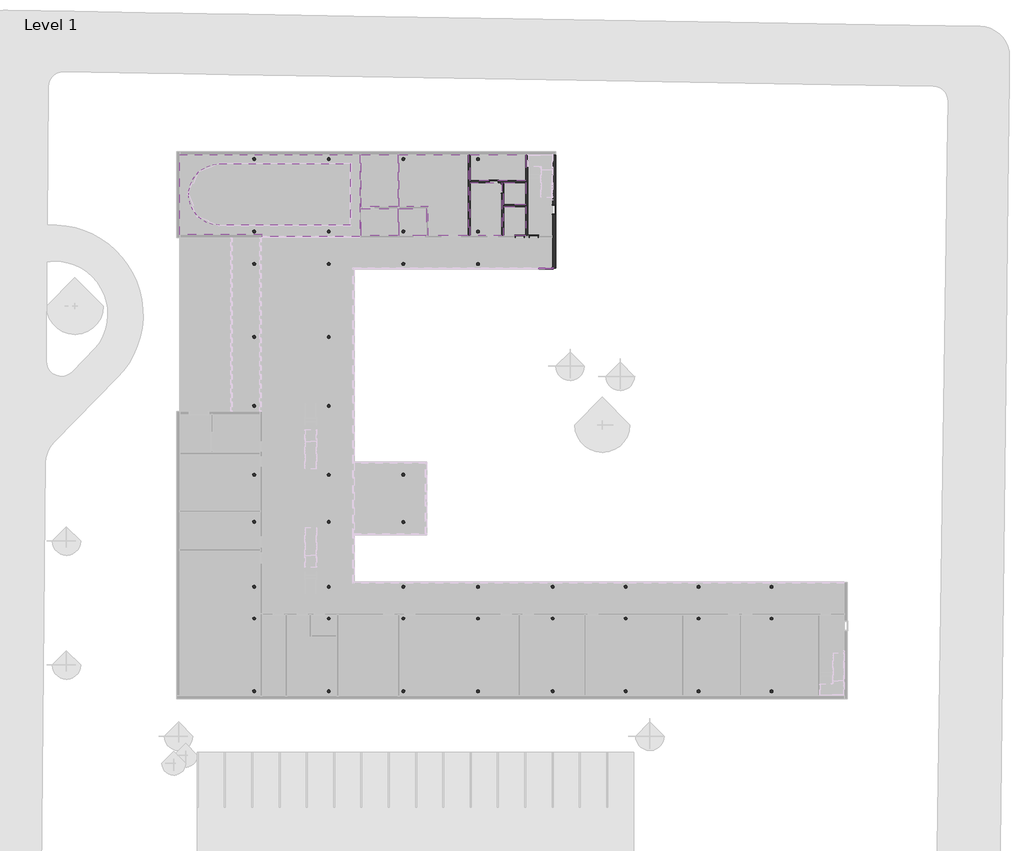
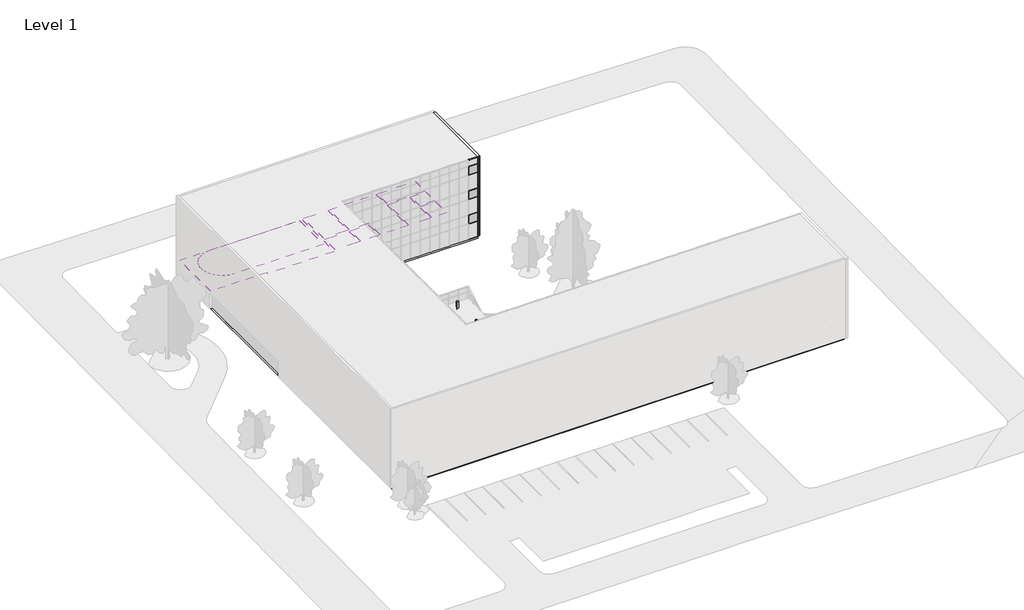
# One storey, part 17 of 27: 46 columns, 15 members, 10 coverings, 6 walls, 5 doors, 3 plates, 1 slab.
"""IFC4 building model written with IfcOpenShell, lengths in millimetres."""

from ifc_helpers import new_model, si_unit, point, frame, frame_2d, origin, origin_with_axes, place, context, project, spatial, polyline, circle_curve, trimmed, segment, composite_curve, outline, extrude, faceted_brep, transform, mapped, element, save
from components import m_concrete_round_column_300mm_df790aaa, door_0915mm_x_2134mm_2aa27b83, door_0915mm_x_2134mm_3fa07aa3, door_0915mm_x_2134mm_b19b82af, quad_corner_mullion_quad_mullion_1_893af7fe, quad_corner_mullion_quad_mullion_1_37ac55ff, quad_corner_mullion_quad_mullion_1_d5379b67, rectangular_mullion_50mm_x_150mm_4d4922e7, rectangular_mullion_50mm_x_150mm_da00b109, system_panel_solid_b23a9ee6

model = new_model("IFC4")

# Units and contexts
model_context = context("Model", 3, world=origin())
ifc_project = project(units=[si_unit("LENGTHUNIT", "METRE", prefix="MILLI")], contexts=[model_context])

# Site, building, storey
site = spatial("IfcSite", under=ifc_project)
building = spatial("IfcBuilding", under=site)
storey = spatial("IfcBuildingStorey", under=building, Name="Level 1", Elevation=0.0)

# Columns
placement = place(None, origin())
element("IfcColumn", 1, ObjectType="M_Concrete-Round-Column : 300mm", at=placement, inside=storey, context=model_context, shape_type="SweptSolid", body=[
    extrude(outline(composite_curve([segment(trimmed(circle_curve(frame_2d((12436.4044804, -1309.4607941)), 150.0), [point((12586.4044804, -1309.4607941))], [point((12286.4044804, -1309.4607941))], False, "CARTESIAN"), True, "CONTINUOUS"), segment(trimmed(circle_curve(frame_2d((12436.4044804, -1309.4607941)), 150.0), [point((12286.4044804, -1309.4607941))], [point((12586.4044804, -1309.4607941))], False, "CARTESIAN"), True, "CONTINUOUS")], self_intersect=False)), origin_with_axes(), (0.0, 0.0, 1.0), 7634.4266858),
])
element("IfcColumn", 2, ObjectType="M_Concrete-Round-Column : 300mm", at=placement, inside=storey, context=model_context, shape_type="SweptSolid", body=[
    extrude(outline(composite_curve([segment(trimmed(circle_curve(frame_2d((12436.4044804, -6063.8611817)), 150.0), [point((12586.4044804, -6063.8611817))], [point((12286.4044804, -6063.8611817))], False, "CARTESIAN"), True, "CONTINUOUS"), segment(trimmed(circle_curve(frame_2d((12436.4044804, -6063.8611817)), 150.0), [point((12286.4044804, -6063.8611817))], [point((12586.4044804, -6063.8611817))], False, "CARTESIAN"), True, "CONTINUOUS")], self_intersect=False)), origin_with_axes(), (0.0, 0.0, 1.0), 7634.4266858),
])
m_concrete_round_column_300mm_shape = m_concrete_round_column_300mm_df790aaa(model_context)
element("IfcColumn", 3, ObjectType="M_Concrete-Round-Column : 300mm", at=placement, inside=storey, context=model_context, shape_type="MappedRepresentation", body=[
    mapped(m_concrete_round_column_300mm_shape, transform((-2539.0909489, 23121.5799804, 0.0), x_axis=(-1.0, 0.0, 0.0), y_axis=(0.0, -1.0, 0.0), z_axis=(0.0, 0.0, 1.0))),
])
element("IfcColumn", 4, ObjectType="M_Concrete-Round-Column : 300mm", at=placement, inside=storey, context=model_context, shape_type="MappedRepresentation", body=[
    mapped(m_concrete_round_column_300mm_shape, transform((-2539.0909489, 12506.7392059, 0.0), x_axis=(-1.0, 0.0, 0.0), y_axis=(0.0, -1.0, 0.0), z_axis=(0.0, 0.0, 1.0))),
])
element("IfcColumn", 5, ObjectType="M_Concrete-Round-Column : 300mm", at=placement, inside=storey, context=model_context, shape_type="MappedRepresentation", body=[
    mapped(m_concrete_round_column_300mm_shape, transform((-2539.0909489, 5598.6392059, 0.0), x_axis=(-1.0, 0.0, 0.0), y_axis=(0.0, -1.0, 0.0), z_axis=(0.0, 0.0, 1.0))),
])
element("IfcColumn", 6, ObjectType="M_Concrete-Round-Column : 300mm", at=placement, inside=storey, context=model_context, shape_type="MappedRepresentation", body=[
    mapped(m_concrete_round_column_300mm_shape, transform((-2539.0909489, -1309.4607941, 0.0), x_axis=(-1.0, 0.0, 0.0), y_axis=(0.0, -1.0, 0.0), z_axis=(0.0, 0.0, 1.0))),
])
element("IfcColumn", 7, ObjectType="M_Concrete-Round-Column : 300mm", at=placement, inside=storey, context=model_context, shape_type="MappedRepresentation", body=[
    mapped(m_concrete_round_column_300mm_shape, transform((-2539.0909489, -6063.8611817, 0.0), x_axis=(-1.0, 0.0, 0.0), y_axis=(0.0, -1.0, 0.0), z_axis=(0.0, 0.0, 1.0))),
])
element("IfcColumn", 8, ObjectType="M_Concrete-Round-Column : 300mm", at=placement, inside=storey, context=model_context, shape_type="MappedRepresentation", body=[
    mapped(m_concrete_round_column_300mm_shape, transform((-2539.0909489, -15754.7006057, 0.0), x_axis=(-1.0, 0.0, 0.0), y_axis=(0.0, -1.0, 0.0), z_axis=(0.0, 0.0, 1.0))),
])
element("IfcColumn", 9, ObjectType="M_Concrete-Round-Column : 300mm", at=placement, inside=storey, context=model_context, shape_type="MappedRepresentation", body=[
    mapped(m_concrete_round_column_300mm_shape, transform((-2539.0909489, 30368.5799804, 0.0), x_axis=(-1.0, 0.0, 0.0), y_axis=(0.0, -1.0, 0.0), z_axis=(0.0, 0.0, 1.0))),
])
element("IfcColumn", 10, ObjectType="M_Concrete-Round-Column : 300mm", at=placement, inside=storey, context=model_context, shape_type="MappedRepresentation", body=[
    mapped(m_concrete_round_column_300mm_shape, transform((-2539.0909489, 19864.8392059, 0.0), x_axis=(-1.0, 0.0, 0.0), y_axis=(0.0, -1.0, 0.0), z_axis=(0.0, 0.0, 1.0))),
])
element("IfcColumn", 11, ObjectType="M_Concrete-Round-Column : 300mm", at=placement, inside=storey, context=model_context, shape_type="MappedRepresentation", body=[
    mapped(m_concrete_round_column_300mm_shape, transform((-2539.0909489, -12582.3615692, 0.0), x_axis=(-1.0, 0.0, 0.0), y_axis=(0.0, -1.0, 0.0), z_axis=(0.0, 0.0, 1.0))),
])
element("IfcColumn", 12, ObjectType="M_Concrete-Round-Column : 300mm", at=placement, inside=storey, context=model_context, shape_type="MappedRepresentation", body=[
    mapped(m_concrete_round_column_300mm_shape, transform((-2539.0909489, -23060.7006057, 0.0), x_axis=(-1.0, 0.0, 0.0), y_axis=(0.0, -1.0, 0.0), z_axis=(0.0, 0.0, 1.0))),
])
element("IfcColumn", 13, ObjectType="M_Concrete-Round-Column : 300mm", at=placement, inside=storey, context=model_context, shape_type="MappedRepresentation", body=[
    mapped(m_concrete_round_column_300mm_shape, transform((4948.6567657, 23121.5799804, 0.0), x_axis=(-1.0, 0.0, 0.0), y_axis=(0.0, -1.0, 0.0), z_axis=(0.0, 0.0, 1.0))),
])
element("IfcColumn", 14, ObjectType="M_Concrete-Round-Column : 300mm", at=placement, inside=storey, context=model_context, shape_type="MappedRepresentation", body=[
    mapped(m_concrete_round_column_300mm_shape, transform((4948.6567657, 12506.7392059, 0.0), x_axis=(-1.0, 0.0, 0.0), y_axis=(0.0, -1.0, 0.0), z_axis=(0.0, 0.0, 1.0))),
])
element("IfcColumn", 15, ObjectType="M_Concrete-Round-Column : 300mm", at=placement, inside=storey, context=model_context, shape_type="MappedRepresentation", body=[
    mapped(m_concrete_round_column_300mm_shape, transform((4948.6567657, 5598.6392059, 0.0), x_axis=(-1.0, 0.0, 0.0), y_axis=(0.0, -1.0, 0.0), z_axis=(0.0, 0.0, 1.0))),
])
element("IfcColumn", 16, ObjectType="M_Concrete-Round-Column : 300mm", at=placement, inside=storey, context=model_context, shape_type="MappedRepresentation", body=[
    mapped(m_concrete_round_column_300mm_shape, transform((4948.6567657, -1309.4607941, 0.0), x_axis=(-1.0, 0.0, 0.0), y_axis=(0.0, -1.0, 0.0), z_axis=(0.0, 0.0, 1.0))),
])
element("IfcColumn", 17, ObjectType="M_Concrete-Round-Column : 300mm", at=placement, inside=storey, context=model_context, shape_type="MappedRepresentation", body=[
    mapped(m_concrete_round_column_300mm_shape, transform((4948.6567657, -6063.8611817, 0.0), x_axis=(-1.0, 0.0, 0.0), y_axis=(0.0, -1.0, 0.0), z_axis=(0.0, 0.0, 1.0))),
])
element("IfcColumn", 18, ObjectType="M_Concrete-Round-Column : 300mm", at=placement, inside=storey, context=model_context, shape_type="MappedRepresentation", body=[
    mapped(m_concrete_round_column_300mm_shape, transform((4948.6567657, -15754.7006057, 0.0), x_axis=(-1.0, 0.0, 0.0), y_axis=(0.0, -1.0, 0.0), z_axis=(0.0, 0.0, 1.0))),
])
element("IfcColumn", 19, ObjectType="M_Concrete-Round-Column : 300mm", at=placement, inside=storey, context=model_context, shape_type="MappedRepresentation", body=[
    mapped(m_concrete_round_column_300mm_shape, transform((4948.6567657, 30368.5799804, 0.0), x_axis=(-1.0, 0.0, 0.0), y_axis=(0.0, -1.0, 0.0), z_axis=(0.0, 0.0, 1.0))),
])
element("IfcColumn", 20, ObjectType="M_Concrete-Round-Column : 300mm", at=placement, inside=storey, context=model_context, shape_type="MappedRepresentation", body=[
    mapped(m_concrete_round_column_300mm_shape, transform((4948.6567657, 19864.8392059, 0.0), x_axis=(-1.0, 0.0, 0.0), y_axis=(0.0, -1.0, 0.0), z_axis=(0.0, 0.0, 1.0))),
])
element("IfcColumn", 21, ObjectType="M_Concrete-Round-Column : 300mm", at=placement, inside=storey, context=model_context, shape_type="MappedRepresentation", body=[
    mapped(m_concrete_round_column_300mm_shape, transform((4948.6567657, -12582.3615692, 0.0), x_axis=(-1.0, 0.0, 0.0), y_axis=(0.0, -1.0, 0.0), z_axis=(0.0, 0.0, 1.0))),
])
element("IfcColumn", 22, ObjectType="M_Concrete-Round-Column : 300mm", at=placement, inside=storey, context=model_context, shape_type="MappedRepresentation", body=[
    mapped(m_concrete_round_column_300mm_shape, transform((4948.6567657, -23060.7006057, 0.0), x_axis=(-1.0, 0.0, 0.0), y_axis=(0.0, -1.0, 0.0), z_axis=(0.0, 0.0, 1.0))),
])
element("IfcColumn", 23, ObjectType="M_Concrete-Round-Column : 300mm", at=placement, inside=storey, context=model_context, shape_type="MappedRepresentation", body=[
    mapped(m_concrete_round_column_300mm_shape, transform((12436.4044804, 23121.5799804, 0.0), x_axis=(-1.0, 0.0, 0.0), y_axis=(0.0, -1.0, 0.0), z_axis=(0.0, 0.0, 1.0))),
])
element("IfcColumn", 24, ObjectType="M_Concrete-Round-Column : 300mm", at=placement, inside=storey, context=model_context, shape_type="MappedRepresentation", body=[
    mapped(m_concrete_round_column_300mm_shape, transform((12436.4044804, -15754.7006057, 0.0), x_axis=(-1.0, 0.0, 0.0), y_axis=(0.0, -1.0, 0.0), z_axis=(0.0, 0.0, 1.0))),
])
element("IfcColumn", 25, ObjectType="M_Concrete-Round-Column : 300mm", at=placement, inside=storey, context=model_context, shape_type="MappedRepresentation", body=[
    mapped(m_concrete_round_column_300mm_shape, transform((12436.4044804, 30368.5799804, 0.0), x_axis=(-1.0, 0.0, 0.0), y_axis=(0.0, -1.0, 0.0), z_axis=(0.0, 0.0, 1.0))),
])
element("IfcColumn", 26, ObjectType="M_Concrete-Round-Column : 300mm", at=placement, inside=storey, context=model_context, shape_type="MappedRepresentation", body=[
    mapped(m_concrete_round_column_300mm_shape, transform((12436.4044804, 19864.8392059, 0.0), x_axis=(-1.0, 0.0, 0.0), y_axis=(0.0, -1.0, 0.0), z_axis=(0.0, 0.0, 1.0))),
])
element("IfcColumn", 27, ObjectType="M_Concrete-Round-Column : 300mm", at=placement, inside=storey, context=model_context, shape_type="MappedRepresentation", body=[
    mapped(m_concrete_round_column_300mm_shape, transform((12436.4044804, -12582.3615692, 0.0), x_axis=(-1.0, 0.0, 0.0), y_axis=(0.0, -1.0, 0.0), z_axis=(0.0, 0.0, 1.0))),
])
element("IfcColumn", 28, ObjectType="M_Concrete-Round-Column : 300mm", at=placement, inside=storey, context=model_context, shape_type="MappedRepresentation", body=[
    mapped(m_concrete_round_column_300mm_shape, transform((12436.4044804, -23060.7006057, 0.0), x_axis=(-1.0, 0.0, 0.0), y_axis=(0.0, -1.0, 0.0), z_axis=(0.0, 0.0, 1.0))),
])
element("IfcColumn", 29, ObjectType="M_Concrete-Round-Column : 300mm", at=placement, inside=storey, context=model_context, shape_type="MappedRepresentation", body=[
    mapped(m_concrete_round_column_300mm_shape, transform((19924.152195, 23121.5799804, 0.0), x_axis=(-1.0, 0.0, 0.0), y_axis=(0.0, -1.0, 0.0), z_axis=(0.0, 0.0, 1.0))),
])
element("IfcColumn", 30, ObjectType="M_Concrete-Round-Column : 300mm", at=placement, inside=storey, context=model_context, shape_type="MappedRepresentation", body=[
    mapped(m_concrete_round_column_300mm_shape, transform((19924.152195, -15754.7006057, 0.0), x_axis=(-1.0, 0.0, 0.0), y_axis=(0.0, -1.0, 0.0), z_axis=(0.0, 0.0, 1.0))),
])
element("IfcColumn", 31, ObjectType="M_Concrete-Round-Column : 300mm", at=placement, inside=storey, context=model_context, shape_type="MappedRepresentation", body=[
    mapped(m_concrete_round_column_300mm_shape, transform((19924.152195, 30368.5799804, 0.0), x_axis=(-1.0, 0.0, 0.0), y_axis=(0.0, -1.0, 0.0), z_axis=(0.0, 0.0, 1.0))),
])
element("IfcColumn", 32, ObjectType="M_Concrete-Round-Column : 300mm", at=placement, inside=storey, context=model_context, shape_type="MappedRepresentation", body=[
    mapped(m_concrete_round_column_300mm_shape, transform((19924.152195, 19864.8392059, 0.0), x_axis=(-1.0, 0.0, 0.0), y_axis=(0.0, -1.0, 0.0), z_axis=(0.0, 0.0, 1.0))),
])
element("IfcColumn", 33, ObjectType="M_Concrete-Round-Column : 300mm", at=placement, inside=storey, context=model_context, shape_type="MappedRepresentation", body=[
    mapped(m_concrete_round_column_300mm_shape, transform((19924.152195, -12582.3615692, 0.0), x_axis=(-1.0, 0.0, 0.0), y_axis=(0.0, -1.0, 0.0), z_axis=(0.0, 0.0, 1.0))),
])
element("IfcColumn", 34, ObjectType="M_Concrete-Round-Column : 300mm", at=placement, inside=storey, context=model_context, shape_type="MappedRepresentation", body=[
    mapped(m_concrete_round_column_300mm_shape, transform((19924.152195, -23060.7006057, 0.0), x_axis=(-1.0, 0.0, 0.0), y_axis=(0.0, -1.0, 0.0), z_axis=(0.0, 0.0, 1.0))),
])
element("IfcColumn", 35, ObjectType="M_Concrete-Round-Column : 300mm", at=placement, inside=storey, context=model_context, shape_type="MappedRepresentation", body=[
    mapped(m_concrete_round_column_300mm_shape, transform((27411.8999097, -15754.7006057, 0.0), x_axis=(-1.0, 0.0, 0.0), y_axis=(0.0, -1.0, 0.0), z_axis=(0.0, 0.0, 1.0))),
])
element("IfcColumn", 36, ObjectType="M_Concrete-Round-Column : 300mm", at=placement, inside=storey, context=model_context, shape_type="MappedRepresentation", body=[
    mapped(m_concrete_round_column_300mm_shape, transform((27411.8999097, -12582.3615692, 0.0), x_axis=(-1.0, 0.0, 0.0), y_axis=(0.0, -1.0, 0.0), z_axis=(0.0, 0.0, 1.0))),
])
element("IfcColumn", 37, ObjectType="M_Concrete-Round-Column : 300mm", at=placement, inside=storey, context=model_context, shape_type="MappedRepresentation", body=[
    mapped(m_concrete_round_column_300mm_shape, transform((27411.8999097, -23060.7006057, 0.0), x_axis=(-1.0, 0.0, 0.0), y_axis=(0.0, -1.0, 0.0), z_axis=(0.0, 0.0, 1.0))),
])
element("IfcColumn", 38, ObjectType="M_Concrete-Round-Column : 300mm", at=placement, inside=storey, context=model_context, shape_type="MappedRepresentation", body=[
    mapped(m_concrete_round_column_300mm_shape, transform((34733.7042668, -15754.7006057, 0.0), x_axis=(-1.0, 0.0, 0.0), y_axis=(0.0, -1.0, 0.0), z_axis=(0.0, 0.0, 1.0))),
])
element("IfcColumn", 39, ObjectType="M_Concrete-Round-Column : 300mm", at=placement, inside=storey, context=model_context, shape_type="MappedRepresentation", body=[
    mapped(m_concrete_round_column_300mm_shape, transform((34733.7042668, -12582.3615692, 0.0), x_axis=(-1.0, 0.0, 0.0), y_axis=(0.0, -1.0, 0.0), z_axis=(0.0, 0.0, 1.0))),
])
element("IfcColumn", 40, ObjectType="M_Concrete-Round-Column : 300mm", at=placement, inside=storey, context=model_context, shape_type="MappedRepresentation", body=[
    mapped(m_concrete_round_column_300mm_shape, transform((34733.7042668, -23060.7006057, 0.0), x_axis=(-1.0, 0.0, 0.0), y_axis=(0.0, -1.0, 0.0), z_axis=(0.0, 0.0, 1.0))),
])
element("IfcColumn", 41, ObjectType="M_Concrete-Round-Column : 300mm", at=placement, inside=storey, context=model_context, shape_type="MappedRepresentation", body=[
    mapped(m_concrete_round_column_300mm_shape, transform((42055.5086239, -15754.7006057, 0.0), x_axis=(-1.0, 0.0, 0.0), y_axis=(0.0, -1.0, 0.0), z_axis=(0.0, 0.0, 1.0))),
])
element("IfcColumn", 42, ObjectType="M_Concrete-Round-Column : 300mm", at=placement, inside=storey, context=model_context, shape_type="MappedRepresentation", body=[
    mapped(m_concrete_round_column_300mm_shape, transform((42055.5086239, -12582.3615692, 0.0), x_axis=(-1.0, 0.0, 0.0), y_axis=(0.0, -1.0, 0.0), z_axis=(0.0, 0.0, 1.0))),
])
element("IfcColumn", 43, ObjectType="M_Concrete-Round-Column : 300mm", at=placement, inside=storey, context=model_context, shape_type="MappedRepresentation", body=[
    mapped(m_concrete_round_column_300mm_shape, transform((42055.5086239, -23060.7006057, 0.0), x_axis=(-1.0, 0.0, 0.0), y_axis=(0.0, -1.0, 0.0), z_axis=(0.0, 0.0, 1.0))),
])
element("IfcColumn", 44, ObjectType="M_Concrete-Round-Column : 300mm", at=placement, inside=storey, context=model_context, shape_type="MappedRepresentation", body=[
    mapped(m_concrete_round_column_300mm_shape, transform((49377.3129811, -15754.7006057, 0.0), x_axis=(-1.0, 0.0, 0.0), y_axis=(0.0, -1.0, 0.0), z_axis=(0.0, 0.0, 1.0))),
])
element("IfcColumn", 45, ObjectType="M_Concrete-Round-Column : 300mm", at=placement, inside=storey, context=model_context, shape_type="MappedRepresentation", body=[
    mapped(m_concrete_round_column_300mm_shape, transform((49377.3129811, -12582.3615692, 0.0), x_axis=(-1.0, 0.0, 0.0), y_axis=(0.0, -1.0, 0.0), z_axis=(0.0, 0.0, 1.0))),
])
element("IfcColumn", 46, ObjectType="M_Concrete-Round-Column : 300mm", at=placement, inside=storey, context=model_context, shape_type="MappedRepresentation", body=[
    mapped(m_concrete_round_column_300mm_shape, transform((49377.3129811, -23060.7006057, 0.0), x_axis=(-1.0, 0.0, 0.0), y_axis=(0.0, -1.0, 0.0), z_axis=(0.0, 0.0, 1.0))),
])

# Coverings
element("IfcCovering", 47, ObjectType="600 x 1200mm grid", at=placement, inside=storey, context=model_context, shape_type="SweptSolid", body=[
    extrude(outline(polyline([(8231.5010724, 30818.5799804), (11847.5010724, 30818.5799804), (11847.5010724, 25612.5799804), (8231.5010724, 25612.5799804), (8231.5010724, 30818.5799804)])), frame((0.0, 0.0, 2600.0), z_axis=(0.0, 0.0, 1.0), x_axis=(1.0, 0.0, 0.0)), (0.0, 0.0, 1.0), 52.0),
])
element("IfcCovering", 48, ObjectType="600 x 1200mm grid", at=placement, inside=storey, context=model_context, shape_type="SweptSolid", body=[
    extrude(outline(polyline([(11847.5010724, 25428.5799804), (11847.5010724, 22704.5799804), (8231.5010724, 22704.5799804), (8231.5010724, 25428.5799804), (11847.5010724, 25428.5799804)])), frame((0.0, 0.0, 2600.0), z_axis=(0.0, 0.0, 1.0), x_axis=(1.0, 0.0, 0.0)), (0.0, 0.0, 1.0), 52.0),
])
element("IfcCovering", 49, ObjectType="600 x 1200mm grid", at=placement, inside=storey, context=model_context, shape_type="SweptSolid", body=[
    extrude(outline(polyline([(14731.5010724, 25428.5799804), (14731.5010724, 22704.5799804), (12031.5010724, 22704.5799804), (12031.5010724, 25428.5799804), (14731.5010724, 25428.5799804)])), frame((0.0, 0.0, 2600.0), z_axis=(0.0, 0.0, 1.0), x_axis=(1.0, 0.0, 0.0)), (0.0, 0.0, 1.0), 52.0),
])
element("IfcCovering", 50, ObjectType="600 x 1200mm grid", at=placement, inside=storey, context=model_context, shape_type="SweptSolid", body=[
    extrude(outline(polyline([(24721.8999097, 22704.5799804), (22490.8999097, 22704.5799804), (22490.8999097, 25612.5799804), (24721.8999097, 25612.5799804), (24721.8999097, 22704.5799804)])), frame((0.0, 0.0, 2600.0), z_axis=(0.0, 0.0, 1.0), x_axis=(1.0, 0.0, 0.0)), (0.0, 0.0, 1.0), 52.0),
])
element("IfcCovering", 51, ObjectType="600 x 600mm grid", at=placement, inside=storey, context=model_context, shape_type="SweptSolid", body=[
    extrude(outline(polyline([(12031.5010724, 30818.5799804), (18947.5010724, 30818.5799804), (18947.5010724, 22704.5799804), (14915.5010724, 22704.5799804), (14915.5010724, 25612.5799804), (12031.5010724, 25612.5799804), (12031.5010724, 30818.5799804)])), frame((0.0, 0.0, 2600.0), z_axis=(0.0, 0.0, 1.0), x_axis=(1.0, 0.0, 0.0)), (0.0, 0.0, 1.0), 52.0),
])
element("IfcCovering", 52, ObjectType="600 x 600mm grid", at=placement, inside=storey, context=model_context, shape_type="SweptSolid", body=[
    extrude(outline(polyline([(22306.8999097, 22704.5799804), (19131.5010724, 22704.5799804), (19131.5010724, 28036.5799804), (22306.8999097, 28036.5799804), (22306.8999097, 22704.5799804)])), frame((0.0, 0.0, 2600.0), z_axis=(0.0, 0.0, 1.0), x_axis=(1.0, 0.0, 0.0)), (0.0, 0.0, 1.0), 52.0),
])
element("IfcCovering", 53, ObjectType="600 x 600mm grid", at=placement, inside=storey, context=model_context, shape_type="SweptSolid", body=[
    extrude(outline(polyline([(24721.8999097, 28036.5799804), (24721.8999097, 25796.5799804), (22490.8999097, 25796.5799804), (22490.8999097, 28036.5799804), (24721.8999097, 28036.5799804)])), frame((0.0, 0.0, 2600.0), z_axis=(0.0, 0.0, 1.0), x_axis=(1.0, 0.0, 0.0)), (0.0, 0.0, 1.0), 52.0),
])
element("IfcCovering", 54, ObjectType="600 x 600mm grid", at=placement, inside=storey, context=model_context, shape_type="SweptSolid", body=[
    extrude(outline(composite_curve([segment(polyline([(-6028.8386635, 29898.5799804), (7127.5010724, 29898.5799804), (7127.5010724, 23742.5799804), (-6028.8386635, 23742.5799804)]), True, "CONTINUOUS"), segment(trimmed(circle_curve(frame_2d((-6028.8386635, 26820.5799804)), 3078.0), [point((-6028.8386635, 23742.5799804))], [point((-6028.8386635, 29898.5799804))], False, "CARTESIAN"), True, "CONTINUOUS")], self_intersect=False)), frame((0.0, 0.0, 3200.0), z_axis=(0.0, 0.0, 1.0), x_axis=(1.0, 0.0, 0.0)), (0.0, 0.0, 1.0), 52.0),
])
element("IfcCovering", 55, ObjectType="GWB on Mtl Stud", at=placement, inside=storey, context=model_context, shape_type="SweptSolid", body=[
    extrude(outline(polyline([(19131.5010724, 30818.5799804), (24721.8999097, 30818.5799804), (24721.8999097, 28220.5799804), (19131.5010724, 28220.5799804), (19131.5010724, 30818.5799804)])), frame((0.0, 0.0, 2600.0), z_axis=(0.0, 0.0, 1.0), x_axis=(1.0, 0.0, 0.0)), (0.0, 0.0, 1.0), 57.0),
])
element("IfcCovering", 56, ObjectType="GWB on Mtl Stud", at=placement, inside=storey, context=model_context, shape_type="SweptSolid", body=[
    extrude(outline(polyline([(-10026.8386635, 22822.5799804), (-10026.8386635, 30818.5799804), (8047.5010724, 30818.5799804), (8047.5010724, 22595.5799804), (-1728.8386635, 22595.5799804), (-1728.8386635, 22822.5799804), (-10026.8386635, 22822.5799804)]), holes=[composite_curve([segment(trimmed(circle_curve(frame_2d((-6028.8386635, 26820.5799804)), 2778.0), [point((-6028.8386635, 29598.5799804))], [point((-6028.8386635, 24042.5799804))], True, "CARTESIAN"), True, "CONTINUOUS"), segment(polyline([(-6028.8386635, 24042.5799804), (6827.5010724, 24042.5799804), (6827.5010724, 29598.5799804), (-6028.8386635, 29598.5799804)]), True, "CONTINUOUS")], self_intersect=False)]), frame((0.0, 0.0, 2440.0), z_axis=(0.0, 0.0, 1.0), x_axis=(1.0, 0.0, 0.0)), (0.0, 0.0, 1.0), 57.0),
])

# Doors
door_0915mm_x_2134mm_shape = door_0915mm_x_2134mm_2aa27b83(model_context)
element("IfcDoor", 57, ObjectType="m-doors-hm-f1-a : 0915mm x 2134mm", at=placement, inside=storey, context=model_context, shape_type="MappedRepresentation", body=[
    mapped(door_0915mm_x_2134mm_shape, transform((22573.8999097, 27428.5799804, 0.0), x_axis=(0.0, -1.0, 0.0), y_axis=(1.0, 0.0, 0.0), z_axis=(0.0, 0.0, 1.0))),
])
element("IfcDoor", 58, ObjectType="m-doors-hm-f1-a : 0915mm x 2134mm", at=placement, inside=storey, context=model_context, shape_type="MappedRepresentation", body=[
    mapped(door_0915mm_x_2134mm_shape, transform((21498.8999097, 28303.5799804, 0.0), x_axis=(1.0, 0.0, 0.0), y_axis=(0.0, 1.0, 0.0), z_axis=(0.0, 0.0, 1.0))),
])
element("IfcDoor", 59, ObjectType="m-doors-hm-f1-a : 0915mm x 2134mm", at=placement, inside=storey, context=model_context, shape_type="MappedRepresentation", body=[
    mapped(door_0915mm_x_2134mm_shape, transform((25516.8999097, 22787.5799804, 0.0), x_axis=(1.0, 0.0, 0.0), y_axis=(0.0, 1.0, 0.0), z_axis=(0.0, 0.0, 1.0))),
])
door_0915mm_x_2134mm_2_shape = door_0915mm_x_2134mm_3fa07aa3(model_context)
element("IfcDoor", 60, ObjectType="m-doors-hm-f1-a : 0915mm x 2134mm", at=placement, inside=storey, context=model_context, shape_type="MappedRepresentation", body=[
    mapped(door_0915mm_x_2134mm_2_shape, transform((24106.8999097, 22787.5799804, 0.0), x_axis=(-1.0, 0.0, 0.0), y_axis=(0.0, -1.0, 0.0), z_axis=(0.0, 0.0, 1.0))),
])
door_0915mm_x_2134mm_3_shape = door_0915mm_x_2134mm_b19b82af(model_context)
element("IfcDoor", 61, ObjectType="m-doors-hm-f1-a : 0915mm x 2134mm", at=placement, inside=storey, context=model_context, shape_type="MappedRepresentation", body=[
    mapped(door_0915mm_x_2134mm_3_shape, transform((27737.8999097, 25312.5799804, 0.0), x_axis=(0.0, -1.0, 0.0), y_axis=(1.0, 0.0, 0.0), z_axis=(0.0, 0.0, 1.0))),
])

# Members
quad_corner_mullion_quad_mullion_1_shape = quad_corner_mullion_quad_mullion_1_893af7fe(model_context)
element("IfcMember", 62, ObjectType="Quad Corner Mullion : Quad Mullion 1", at=placement, inside=storey, context=model_context, shape_type="MappedRepresentation", body=[
    mapped(quad_corner_mullion_quad_mullion_1_shape, transform((27411.8999097, 19414.8392059, 11400.0), x_axis=(1.0, 0.0, 0.0), y_axis=(0.0, -1.0, 0.0), z_axis=(0.0, 0.0, -1.0))),
])
quad_corner_mullion_quad_mullion_1_2_shape = quad_corner_mullion_quad_mullion_1_37ac55ff(model_context)
element("IfcMember", 63, ObjectType="Quad Corner Mullion : Quad Mullion 1", at=placement, inside=storey, context=model_context, shape_type="MappedRepresentation", body=[
    mapped(quad_corner_mullion_quad_mullion_1_2_shape, transform((27411.8999097, 19414.8392059, 3800.0), x_axis=(1.0, 0.0, 0.0), y_axis=(0.0, -1.0, 0.0), z_axis=(0.0, 0.0, -1.0))),
])
element("IfcMember", 64, ObjectType="Quad Corner Mullion : Quad Mullion 1", at=placement, inside=storey, context=model_context, shape_type="MappedRepresentation", body=[
    mapped(quad_corner_mullion_quad_mullion_1_2_shape, transform((27411.8999097, 19414.8392059, 7600.0), x_axis=(1.0, 0.0, 0.0), y_axis=(0.0, -1.0, 0.0), z_axis=(0.0, 0.0, -1.0))),
])
quad_corner_mullion_quad_mullion_1_3_shape = quad_corner_mullion_quad_mullion_1_d5379b67(model_context)
element("IfcMember", 65, ObjectType="Quad Corner Mullion : Quad Mullion 1", at=placement, inside=storey, context=model_context, shape_type="MappedRepresentation", body=[
    mapped(quad_corner_mullion_quad_mullion_1_3_shape, transform((27411.8999097, 19414.8392059, 10040.0), x_axis=(1.0, 0.0, 0.0), y_axis=(0.0, -1.0, 0.0), z_axis=(0.0, 0.0, -1.0))),
])
element("IfcMember", 66, ObjectType="Quad Corner Mullion : Quad Mullion 1", at=placement, inside=storey, context=model_context, shape_type="MappedRepresentation", body=[
    mapped(quad_corner_mullion_quad_mullion_1_3_shape, transform((27411.8999097, 19414.8392059, 6240.0), x_axis=(1.0, 0.0, 0.0), y_axis=(0.0, -1.0, 0.0), z_axis=(0.0, 0.0, -1.0))),
])
element("IfcMember", 67, ObjectType="Quad Corner Mullion : Quad Mullion 1", at=placement, inside=storey, context=model_context, shape_type="MappedRepresentation", body=[
    mapped(quad_corner_mullion_quad_mullion_1_3_shape, transform((27411.8999097, 19414.8392059, 2440.0), x_axis=(1.0, 0.0, 0.0), y_axis=(0.0, -1.0, 0.0), z_axis=(0.0, 0.0, -1.0))),
])
element("IfcMember", 68, ObjectType="Quad Corner Mullion : Quad Mullion 1", at=placement, inside=storey, context=model_context, shape_type="MappedRepresentation", body=[
    mapped(quad_corner_mullion_quad_mullion_1_2_shape, transform((27411.8999097, 19414.8392059, 0.0), x_axis=(1.0, 0.0, 0.0), y_axis=(0.0, -1.0, 0.0), z_axis=(0.0, 0.0, -1.0))),
])
rectangular_mullion_50mm_x_150mm_shape = rectangular_mullion_50mm_x_150mm_4d4922e7(model_context)
element("IfcMember", 69, ObjectType="Rectangular Mullion : 50mm x 150mm", at=placement, inside=storey, context=model_context, shape_type="MappedRepresentation", body=[
    mapped(rectangular_mullion_50mm_x_150mm_shape, transform((27336.8999097, 19414.8392059, 12400.0), x_axis=(0.0, 0.0, 1.0), y_axis=(0.0, -1.0, 0.0), z_axis=(1.0, 0.0, 0.0))),
])
element("IfcMember", 70, ObjectType="Rectangular Mullion : 50mm x 150mm", at=placement, inside=storey, context=model_context, shape_type="MappedRepresentation", body=[
    mapped(rectangular_mullion_50mm_x_150mm_shape, transform((26010.871421, 19414.8392059, 0.0), x_axis=(0.0, 0.0, -1.0), y_axis=(0.0, -1.0, 0.0), z_axis=(-1.0, 0.0, 0.0))),
])
rectangular_mullion_50mm_x_150mm_2_shape = rectangular_mullion_50mm_x_150mm_da00b109(model_context)
element("IfcMember", 71, ObjectType="Rectangular Mullion : 50mm x 150mm", at=placement, inside=storey, context=model_context, shape_type="MappedRepresentation", body=[
    mapped(rectangular_mullion_50mm_x_150mm_2_shape, transform((27336.8999097, 19414.8392059, 3800.0), x_axis=(0.0, 0.0, 1.0), y_axis=(0.0, -1.0, 0.0), z_axis=(1.0, 0.0, 0.0))),
])
element("IfcMember", 72, ObjectType="Rectangular Mullion : 50mm x 150mm", at=placement, inside=storey, context=model_context, shape_type="MappedRepresentation", body=[
    mapped(rectangular_mullion_50mm_x_150mm_2_shape, transform((27336.8999097, 19414.8392059, 7600.0), x_axis=(0.0, 0.0, 1.0), y_axis=(0.0, -1.0, 0.0), z_axis=(1.0, 0.0, 0.0))),
])
element("IfcMember", 73, ObjectType="Rectangular Mullion : 50mm x 150mm", at=placement, inside=storey, context=model_context, shape_type="MappedRepresentation", body=[
    mapped(rectangular_mullion_50mm_x_150mm_2_shape, transform((27336.8999097, 19414.8392059, 11400.0), x_axis=(0.0, 0.0, 1.0), y_axis=(0.0, -1.0, 0.0), z_axis=(1.0, 0.0, 0.0))),
])
element("IfcMember", 74, ObjectType="Rectangular Mullion : 50mm x 150mm", at=placement, inside=storey, context=model_context, shape_type="MappedRepresentation", body=[
    mapped(rectangular_mullion_50mm_x_150mm_2_shape, transform((27336.8999097, 19414.8392059, 10040.0), x_axis=(0.0, 0.0, 1.0), y_axis=(0.0, -1.0, 0.0), z_axis=(1.0, 0.0, 0.0))),
])
element("IfcMember", 75, ObjectType="Rectangular Mullion : 50mm x 150mm", at=placement, inside=storey, context=model_context, shape_type="MappedRepresentation", body=[
    mapped(rectangular_mullion_50mm_x_150mm_2_shape, transform((27336.8999097, 19414.8392059, 6240.0), x_axis=(0.0, 0.0, 1.0), y_axis=(0.0, -1.0, 0.0), z_axis=(1.0, 0.0, 0.0))),
])
element("IfcMember", 76, ObjectType="Rectangular Mullion : 50mm x 150mm", at=placement, inside=storey, context=model_context, shape_type="MappedRepresentation", body=[
    mapped(rectangular_mullion_50mm_x_150mm_2_shape, transform((27336.8999097, 19414.8392059, 2440.0), x_axis=(0.0, 0.0, 1.0), y_axis=(0.0, -1.0, 0.0), z_axis=(1.0, 0.0, 0.0))),
])

# Plates
system_panel_solid_shape = system_panel_solid_b23a9ee6(model_context)
element("IfcPlate", 77, ObjectType="System Panel : Solid", at=placement, inside=storey, context=model_context, shape_type="MappedRepresentation", body=[
    mapped(system_panel_solid_shape, transform((26673.8856653, 19414.8392059, 10065.0), x_axis=(1.0, 0.0, 0.0), y_axis=(0.0, 1.0, 0.0), z_axis=(0.0, 0.0, 1.0))),
])
element("IfcPlate", 78, ObjectType="System Panel : Solid", at=placement, inside=storey, context=model_context, shape_type="MappedRepresentation", body=[
    mapped(system_panel_solid_shape, transform((26673.8856653, 19414.8392059, 6265.0), x_axis=(1.0, 0.0, 0.0), y_axis=(0.0, 1.0, 0.0), z_axis=(0.0, 0.0, 1.0))),
])
element("IfcPlate", 79, ObjectType="System Panel : Solid", at=placement, inside=storey, context=model_context, shape_type="MappedRepresentation", body=[
    mapped(system_panel_solid_shape, transform((26673.8856653, 19414.8392059, 2465.0), x_axis=(1.0, 0.0, 0.0), y_axis=(0.0, 1.0, 0.0), z_axis=(0.0, 0.0, 1.0))),
])

# Slab
element("IfcSlab", 80, ObjectType="Pad 1", at=placement, inside=storey, context=model_context, shape_type="SweptSolid", body=[
    extrude(outline(polyline([(27411.8999097, 30818.5799804), (27411.8999097, 19414.8392059), (7447.5010724, 19414.8392059), (7447.5010724, -89.4607941), (14709.0902051, -89.4607941), (14709.0902051, -7283.8611817), (7447.5010724, -7283.8611817), (7447.5010724, -12132.3615692), (56699.1173382, -12132.3615692), (56699.1173382, -23510.7006057), (-10026.8386635, -23510.7006057), (-10026.8386635, 30818.5799804), (27411.8999097, 30818.5799804)])), frame((0.0, 0.0, -304.8), z_axis=(0.0, 0.0, 1.0), x_axis=(1.0, 0.0, 0.0)), (0.0, 0.0, 1.0), 304.8),
])

# Walls
element("IfcWall", 81, ObjectType="P6 184mm - 1HR - ULC #W453", at=placement, inside=storey, context=model_context, shape_type="Brep", body=[
    faceted_brep([(19131.5010724, 22704.5799804, 0.0), (19131.5010724, 28036.5799804, 0.0), (19131.5010724, 28220.5799804, 0.0), (19131.5010724, 30818.5799804, 0.0), (19131.5010724, 30818.5799804, 3550.0), (19131.5010724, 28220.5799804, 3550.0), (19131.5010724, 28036.5799804, 3550.0), (19131.5010724, 22704.5799804, 3550.0), (18947.5010724, 22704.5799804, 0.0), (18947.5010724, 22704.5799804, 3550.0), (18947.5010724, 30818.5799804, 3550.0), (18947.5010724, 30818.5799804, 0.0)], [[[0, 1, 2, 3, 4, 5, 6, 7]], [[8, 9, 10, 11]], [[3, 2, 1, 0, 8, 11]], [[7, 6, 5, 4, 10, 9]], [[4, 3, 11, 10]], [[0, 7, 9, 8]]]),
])
element("IfcWall", 82, ObjectType="P6 184mm - 1HR - ULC #W453", at=placement, inside=storey, context=model_context, shape_type="Brep", body=[
    faceted_brep([(24721.8999097, 28036.5799804, 3550.0), (22490.8999097, 28036.5799804, 3550.0), (22306.8999097, 28036.5799804, 3550.0), (19131.5010724, 28036.5799804, 3550.0), (19131.5010724, 28036.5799804, 0.0), (20991.3999097, 28036.5799804, 0.0), (20991.3999097, 28036.5799804, 2184.0), (22006.3999097, 28036.5799804, 2184.0), (22006.3999097, 28036.5799804, 0.0), (22306.8999097, 28036.5799804, 0.0), (22490.8999097, 28036.5799804, 0.0), (24721.8999097, 28036.5799804, 0.0), (19131.5010724, 28220.5799804, 3550.0), (24721.8999097, 28220.5799804, 3550.0), (24721.8999097, 28220.5799804, 0.0), (22006.3999097, 28220.5799804, 0.0), (22006.3999097, 28220.5799804, 2184.0), (20991.3999097, 28220.5799804, 2184.0), (20991.3999097, 28220.5799804, 0.0), (19131.5010724, 28220.5799804, 0.0)], [[[0, 1, 2, 3, 4, 5, 6, 7, 8, 9, 10, 11]], [[12, 13, 14, 15, 16, 17, 18, 19]], [[4, 19, 18, 5]], [[14, 11, 10, 9, 8, 15]], [[3, 2, 1, 0, 13, 12]], [[4, 3, 12, 19]], [[0, 11, 14, 13]], [[7, 16, 15, 8]], [[16, 7, 6, 17]], [[17, 6, 5, 18]]]),
])
element("IfcWall", 83, ObjectType="P6 184mm - 1HR - ULC #W453", at=placement, inside=storey, context=model_context, shape_type="Brep", body=[
    faceted_brep([(22306.8999097, 22704.5799804, 3550.0), (22306.8999097, 28036.5799804, 3550.0), (22306.8999097, 28036.5799804, 0.0), (22306.8999097, 27936.0799804, 0.0), (22306.8999097, 27936.0799804, 2184.0), (22306.8999097, 26921.0799804, 2184.0), (22306.8999097, 26921.0799804, 0.0), (22306.8999097, 22704.5799804, 0.0), (22490.8999097, 28036.5799804, 3550.0), (22490.8999097, 25796.5799804, 3550.0), (22490.8999097, 25612.5799804, 3550.0), (22490.8999097, 22704.5799804, 3550.0), (22490.8999097, 22704.5799804, 0.0), (22490.8999097, 25612.5799804, 0.0), (22490.8999097, 25796.5799804, 0.0), (22490.8999097, 26921.0799804, 0.0), (22490.8999097, 26921.0799804, 2184.0), (22490.8999097, 27936.0799804, 2184.0), (22490.8999097, 27936.0799804, 0.0), (22490.8999097, 28036.5799804, 0.0)], [[[0, 1, 2, 3, 4, 5, 6, 7]], [[8, 9, 10, 11, 12, 13, 14, 15, 16, 17, 18, 19]], [[2, 19, 18, 3]], [[12, 7, 6, 15, 14, 13]], [[1, 0, 11, 10, 9, 8]], [[2, 1, 8, 19]], [[0, 7, 12, 11]], [[5, 16, 15, 6]], [[16, 5, 4, 17]], [[17, 4, 3, 18]]]),
])
element("IfcWall", 84, ObjectType="P6 184mm - 1HR - ULC #W453", at=placement, inside=storey, context=model_context, shape_type="SweptSolid", body=[
    extrude(outline(polyline([(22490.8999097, 25796.5799804), (24721.8999097, 25796.5799804), (24721.8999097, 25612.5799804), (22490.8999097, 25612.5799804), (22490.8999097, 25796.5799804)])), origin_with_axes(), (0.0, 0.0, 1.0), 3550.0),
])
element("IfcWall", 85, ObjectType="Exterior - EIFS on Mtl Stud", at=placement, inside=storey, context=model_context, shape_type="Brep", body=[
    faceted_brep([(27713.8999097, 30818.5799804, 12400.0), (27713.8999097, 19414.8392059, 12400.0), (27713.8999097, 19414.8392059, 0.0), (27713.8999097, 24805.0799804, 0.0), (27713.8999097, 24805.0799804, 2184.0), (27713.8999097, 25820.0799804, 2184.0), (27713.8999097, 25820.0799804, 0.0), (27713.8999097, 30818.5799804, 0.0), (27411.8999097, 19414.8392059, 12400.0), (27411.8999097, 30818.5799804, 12400.0), (27411.8999097, 30818.5799804, 0.0), (27411.8999097, 25820.0799804, 0.0), (27411.8999097, 25820.0799804, 2184.0), (27411.8999097, 24805.0799804, 2184.0), (27411.8999097, 24805.0799804, 0.0), (27411.8999097, 22704.5799804, 0.0), (27411.8999097, 22520.5799804, 0.0), (27411.8999097, 19414.8392059, 0.0)], [[[0, 1, 2, 3, 4, 5, 6, 7]], [[8, 9, 10, 11, 12, 13, 14, 15, 16, 17]], [[2, 17, 16, 15, 14, 3]], [[10, 7, 6, 11]], [[1, 0, 9, 8]], [[2, 1, 8, 17]], [[0, 7, 10, 9]], [[13, 4, 3, 14]], [[4, 13, 12, 5]], [[5, 12, 11, 6]]]),
])
element("IfcWall", 86, ObjectType="P28 190mm CMU 2 HR", at=placement, inside=storey, context=model_context, shape_type="Brep", body=[
    faceted_brep([(24721.8999097, 30818.5799804, 0.0), (24721.8999097, 28220.5799804, 0.0), (24721.8999097, 28036.5799804, 0.0), (24721.8999097, 25796.5799804, 0.0), (24721.8999097, 25612.5799804, 0.0), (24721.8999097, 22704.5799804, 0.0), (24721.8999097, 22704.5799804, 3550.0), (24721.8999097, 25612.5799804, 3550.0), (24721.8999097, 25796.5799804, 3550.0), (24721.8999097, 28036.5799804, 3550.0), (24721.8999097, 28220.5799804, 3550.0), (24721.8999097, 30818.5799804, 3550.0), (24911.8999097, 30818.5799804, 0.0), (24911.8999097, 30818.5799804, 3550.0), (24911.8999097, 22704.5799804, 3550.0), (24911.8999097, 22704.5799804, 0.0)], [[[0, 1, 2, 3, 4, 5, 6, 7, 8, 9, 10, 11]], [[12, 13, 14, 15]], [[5, 4, 3, 2, 1, 0, 12, 15]], [[11, 10, 9, 8, 7, 6, 14, 13]], [[0, 11, 13, 12]], [[6, 5, 15, 14]]]),
])

save(model, "model.ifc")
